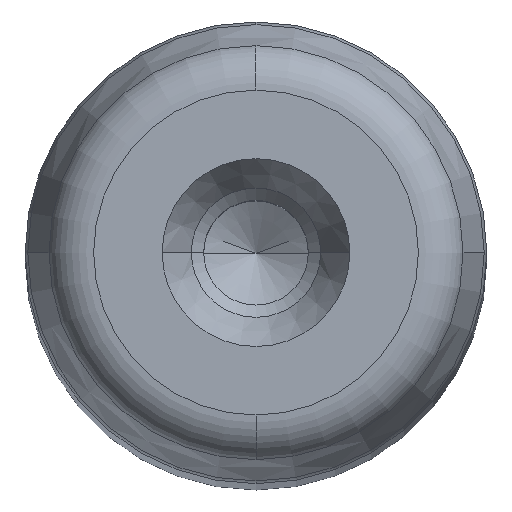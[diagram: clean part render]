
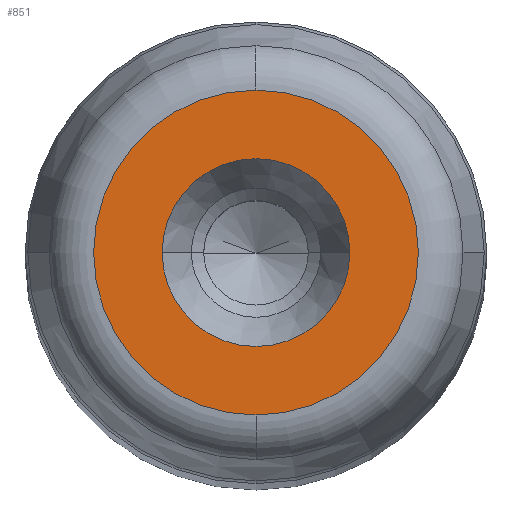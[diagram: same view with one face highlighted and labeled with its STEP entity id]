
A CAD part, top view. The second image highlights one B-rep face of the part: STEP entity #851.
In plain terms, the highlighted planar face has unit normal (0, 0, 1) as drawn and (0, 1, 0) by its records, which use the part's own axes.
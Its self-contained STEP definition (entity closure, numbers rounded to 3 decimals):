
#281=CARTESIAN_POINT('',(6.1,250.0,0.0));
#282=VERTEX_POINT('',#281);
#289=CARTESIAN_POINT('',(-6.1,250.0,0.));
#290=VERTEX_POINT('',#289);
#291=CARTESIAN_POINT('',(0.0,250.0,0.0));
#292=DIRECTION('',(0.0,1.0,0.0));
#293=DIRECTION('',(1.0,0.0,0.0));
#294=AXIS2_PLACEMENT_3D('',#291,#292,#293);
#295=CIRCLE('',#294,6.1);
#296=EDGE_CURVE('',#282,#290,#295,.T.);
#313=CARTESIAN_POINT('',(0.0,250.0,10.554));
#314=VERTEX_POINT('',#313);
#324=CARTESIAN_POINT('',(0.,250.0,-10.554));
#325=VERTEX_POINT('',#324);
#326=CARTESIAN_POINT('',(0.0,250.0,0.0));
#327=DIRECTION('',(0.0,1.0,0.0));
#328=DIRECTION('',(1.0,0.0,0.0));
#329=AXIS2_PLACEMENT_3D('',#326,#327,#328);
#330=CIRCLE('',#329,10.554);
#331=EDGE_CURVE('',#325,#314,#330,.T.);
#812=CARTESIAN_POINT('',(10.554,250.0,0.0));
#813=VERTEX_POINT('',#812);
#814=CARTESIAN_POINT('',(0.0,250.0,0.0));
#815=DIRECTION('',(0.0,1.0,0.0));
#816=DIRECTION('',(1.0,0.0,0.0));
#817=AXIS2_PLACEMENT_3D('',#814,#815,#816);
#818=CIRCLE('',#817,10.554);
#819=EDGE_CURVE('',#813,#325,#818,.T.);
#821=CARTESIAN_POINT('',(0.0,250.0,0.0));
#822=DIRECTION('',(0.0,1.0,0.0));
#823=DIRECTION('',(1.0,0.0,0.0));
#824=AXIS2_PLACEMENT_3D('',#821,#822,#823);
#825=CIRCLE('',#824,10.554);
#826=EDGE_CURVE('',#314,#813,#825,.T.);
#831=CARTESIAN_POINT('',(-11.61,250.0,-11.61));
#832=DIRECTION('',(0.0,1.0,0.0));
#833=DIRECTION('',(0.0,0.0,1.0));
#834=AXIS2_PLACEMENT_3D('',#831,#832,#833);
#835=PLANE('',#834);
#836=ORIENTED_EDGE('',*,*,#819,.T.);
#837=ORIENTED_EDGE('',*,*,#331,.T.);
#838=ORIENTED_EDGE('',*,*,#826,.T.);
#839=EDGE_LOOP('',(#836,#837,#838));
#840=FACE_OUTER_BOUND('',#839,.T.);
#841=ORIENTED_EDGE('',*,*,#296,.F.);
#842=CARTESIAN_POINT('',(0.0,250.0,0.0));
#843=DIRECTION('',(0.0,1.0,0.0));
#844=DIRECTION('',(1.0,0.0,0.0));
#845=AXIS2_PLACEMENT_3D('',#842,#843,#844);
#846=CIRCLE('',#845,6.1);
#847=EDGE_CURVE('',#290,#282,#846,.T.);
#848=ORIENTED_EDGE('',*,*,#847,.F.);
#849=EDGE_LOOP('',(#841,#848));
#850=FACE_BOUND('',#849,.T.);
#851=ADVANCED_FACE('',(#840,#850),#835,.T.);
